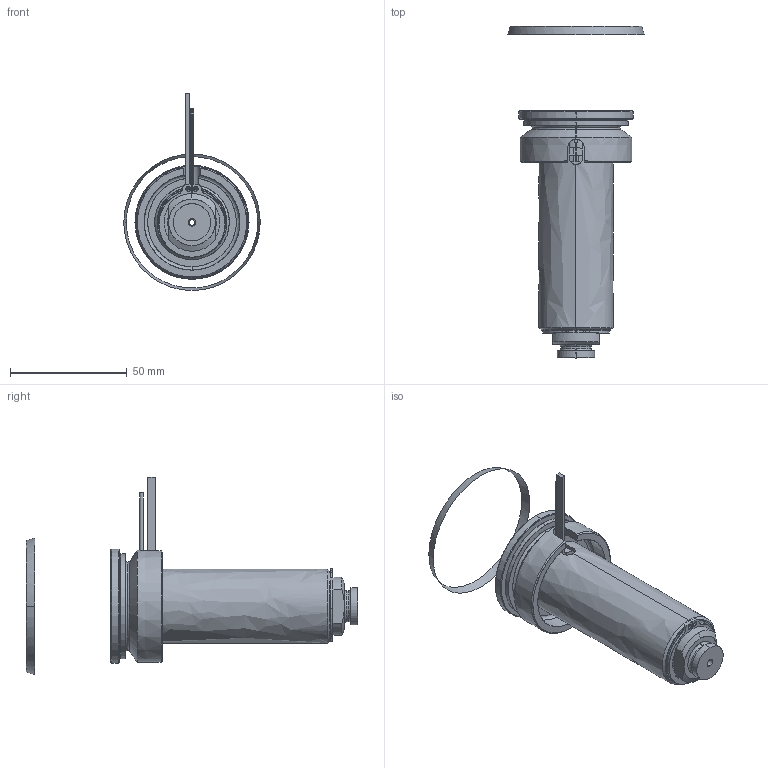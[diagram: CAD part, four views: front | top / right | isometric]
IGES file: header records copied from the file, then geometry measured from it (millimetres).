
Start section: SolidWorks IGES file using analytic representation for surfaces
Global section: file name: C:\Documents and Settings\ws-20\Desktop\TEMPORANEA\UGBE5002-S-A-3 [Ød-2.5 P-0 ØC-13].IGS; native system: SolidWorks 2012; preprocessor: SolidWorks 2012; author: ws-20; date: 120306.161820; units: millimetre
Bounding box: 58.57 x 142.44 x 84.59 mm (x, y, z)
Surface area: 41263.5 mm2 (no closed solid volume)
Topology: 0 solids, 0 shells, 111 faces, 2106 edges, 2106 vertices
Faces by surface type: revolution 70, bspline 41
